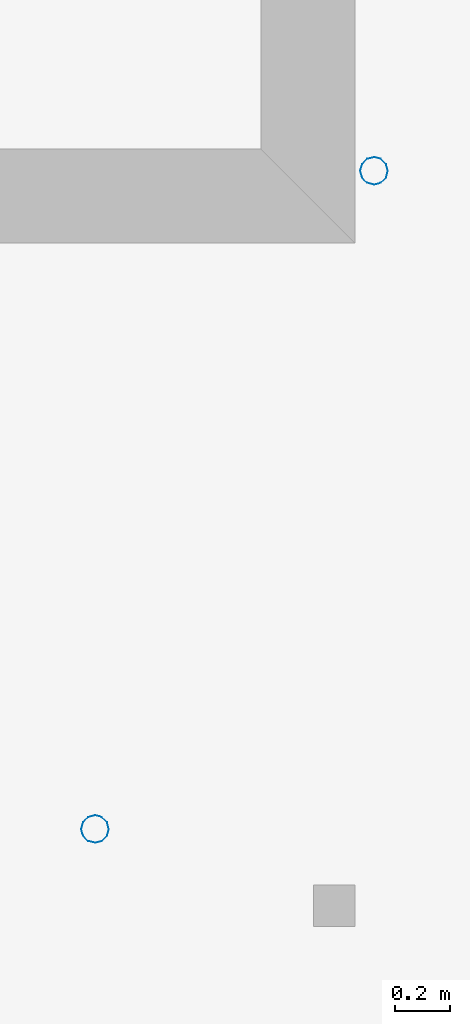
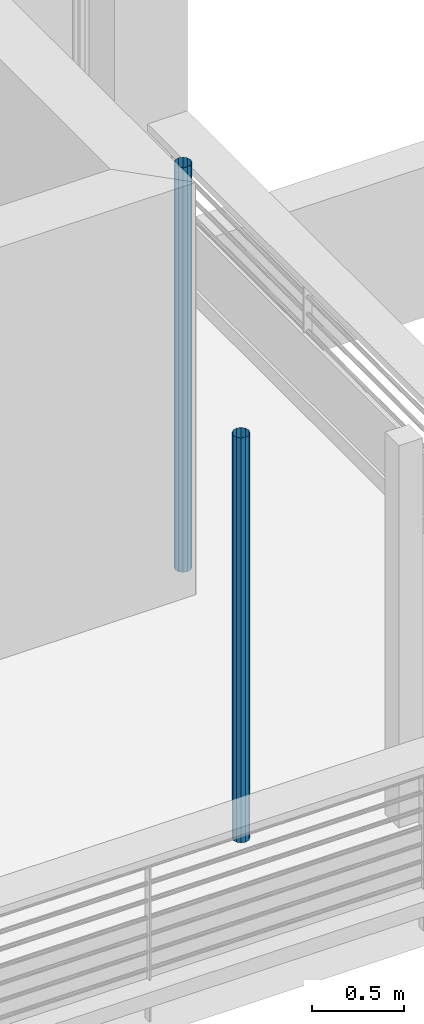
# One storey, part 90 of 171: 2 discrete accessories.
"""IFC2X3 building model written with IfcOpenShell, lengths in millimetres."""

from ifc_helpers import new_model, entity, si_unit, converted_unit, derived_unit, money_unit, direction, frame, origin_with_axes, place, context, subcontext, project, spatial, open_shell, surface_model, source, transform, mapped, type_object, element, save


model = new_model("IFC2X3")

# Units and contexts
model_context = context("Model", 3, precision=0.01, world=origin_with_axes(), true_north=direction((0.0, 1.0)))
body_context = subcontext(model_context, "Body", "Model", "MODEL_VIEW")
ifc_project = project(units=[si_unit("LENGTHUNIT", "METRE", prefix="MILLI"), si_unit("AREAUNIT", "SQUARE_METRE"), si_unit("VOLUMEUNIT", "CUBIC_METRE"), converted_unit("PLANEANGLEUNIT", "DEGREE", entity("IfcPlaneAngleMeasure", 0.0174532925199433), si_unit("PLANEANGLEUNIT", "RADIAN"), dimensions=[0, 0, 0, 0, 0, 0, 0]), money_unit("USD"), converted_unit("TIMEUNIT", "Year", entity("IfcTimeMeasure", 31557600.0), si_unit("TIMEUNIT", "SECOND"), dimensions=[0, 0, 1, 0, 0, 0, 0]), si_unit("MASSUNIT", "GRAM", prefix="KILO"), si_unit("THERMODYNAMICTEMPERATUREUNIT", "DEGREE_CELSIUS"), si_unit("LUMINOUSINTENSITYUNIT", "LUMEN"), si_unit("ENERGYUNIT", "JOULE", prefix="MEGA"), derived_unit("THERMALCONDUCTANCEUNIT", [(si_unit("POWERUNIT", "WATT"), 1), (si_unit("LENGTHUNIT", "METRE"), -1), (si_unit("THERMODYNAMICTEMPERATUREUNIT", "KELVIN"), -1)]), derived_unit("SPECIFICHEATCAPACITYUNIT", [(si_unit("ENERGYUNIT", "JOULE"), 1), (si_unit("MASSUNIT", "GRAM", prefix="KILO"), -1), (si_unit("THERMODYNAMICTEMPERATUREUNIT", "KELVIN"), -1)]), derived_unit("MASSDENSITYUNIT", [(si_unit("MASSUNIT", "GRAM", prefix="KILO"), 1), (si_unit("VOLUMEUNIT", "CUBIC_METRE"), -1)])], contexts=[model_context])

# Site, building, storey
site_placement = place(None, origin_with_axes())
site = spatial("IfcSite", under=ifc_project, at=site_placement, Name="Site", CompositionType="ELEMENT")
building_placement = place(site_placement, origin_with_axes())
building = spatial("IfcBuilding", under=site, at=building_placement, Name="Bâtiment", CompositionType="ELEMENT")
storey_placement = place(building_placement, frame((0.0, 0.0, 3000.0), z_axis=(0.0, 0.0, 1.0), x_axis=(1.0, 0.0, 0.0)))
storey = spatial("IfcBuildingStorey", under=building, at=storey_placement, Name="rdc", CompositionType="ELEMENT", Elevation=3000.0)

# Discrete accessories
discrete_accessory_type = type_object("IfcDiscreteAccessoryType", Name="Tuyau descente 27")
shared_shape = source(origin_with_axes(), body_context, "Body", "SurfaceModel", [
    surface_model("IfcShellBasedSurfaceModel", [(50.0, 0.0, 2700.0), (43.30127018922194, -25.0, 2700.0), (43.30127018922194, -25.0, 0.0), (50.0, 0.0, 0.0), (25.00000000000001, -43.30127018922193, 2700.0), (25.00000000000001, -43.30127018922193, 0.0), (43.30127018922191, 25.00000000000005, 2700.0), (43.30127018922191, 25.00000000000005, 0.0), (0.0, -50.0, 2700.0), (0.0, -50.0, 0.0), (24.99999999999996, 43.30127018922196, 2700.0), (24.99999999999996, 43.30127018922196, 0.0), (-24.99999999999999, -43.30127018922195, 2700.0), (-24.99999999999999, -43.30127018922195, 0.0), (0.0, 50.0, 2700.0), (0.0, 50.0, 0.0), (-43.30127018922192, -25.00000000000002, 2700.0), (-43.30127018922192, -25.00000000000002, 0.0), (-25.00000000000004, 43.30127018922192, 2700.0), (-25.00000000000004, 43.30127018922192, 0.0), (-50.0, 0.0, 2700.0), (-50.0, 0.0, 0.0), (-43.30127018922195, 24.99999999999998, 2700.0), (-43.30127018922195, 24.99999999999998, 0.0)], [open_shell([[[0, 1, 2, 3]], [[1, 4, 5, 2]], [[6, 0, 3, 7]], [[4, 8, 9, 5]], [[10, 6, 7, 11]], [[8, 12, 13, 9]], [[14, 10, 11, 15]], [[12, 16, 17, 13]], [[18, 14, 15, 19]], [[16, 20, 21, 17]], [[22, 18, 19, 23]], [[20, 22, 23, 21]]])]),
])
for number, where, z_axis, x_axis, name in (
    (1, (2232876.658098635, -657556.9887538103, 0.0), (0.0, 0.0, 1.0), (1.0, 0.0, 0.0), "Obj.-318"),
    (2, (2231864.233338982, -659945.2572130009, 0.0), (0.0, 0.0, 1.0), (1.0, 0.0, 0.0), "Obj.-318"),
):
    element("IfcDiscreteAccessory", number, at=place(storey_placement, frame(where, z_axis=z_axis, x_axis=x_axis)), inside=storey, type_object=discrete_accessory_type, Name=name, context=body_context, shape_type="MappedRepresentation", body=[
        mapped(shared_shape, transform((0.0, 0.0, 0.0))),
    ])

save(model, "model.ifc")
